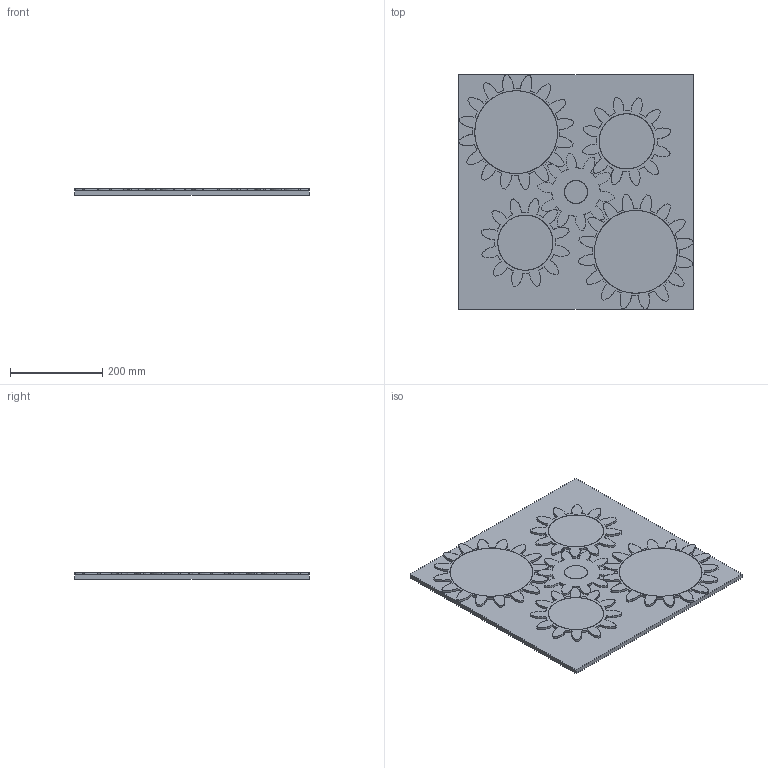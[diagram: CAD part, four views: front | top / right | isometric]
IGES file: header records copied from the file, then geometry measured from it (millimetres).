
Start section: SolidWorks IGES file using analytic representation for surfaces
Global section: file name: C:\Users\Daniele\Desktop\Assem1.IGS; native system: SolidWorks 2014; preprocessor: SolidWorks 2014; author: Daniele; date: 150530.124929; units: millimetre
Bounding box: 510 x 510 x 15 mm (x, y, z)
Surface area: 702046.9 mm2 (no closed solid volume)
Topology: 0 solids, 0 shells, 330 faces, 4290 edges, 4290 vertices
Faces by surface type: revolution 309, bspline 21
